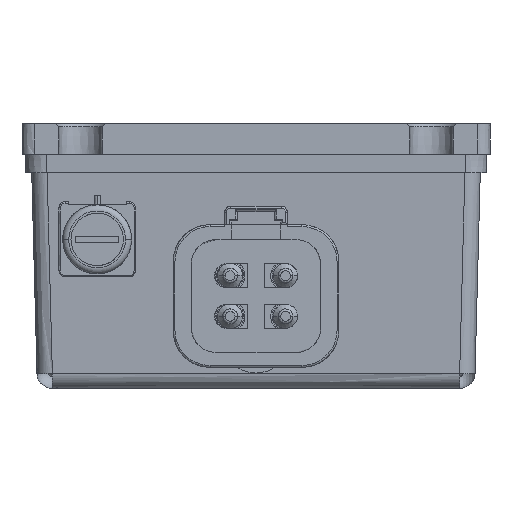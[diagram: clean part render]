
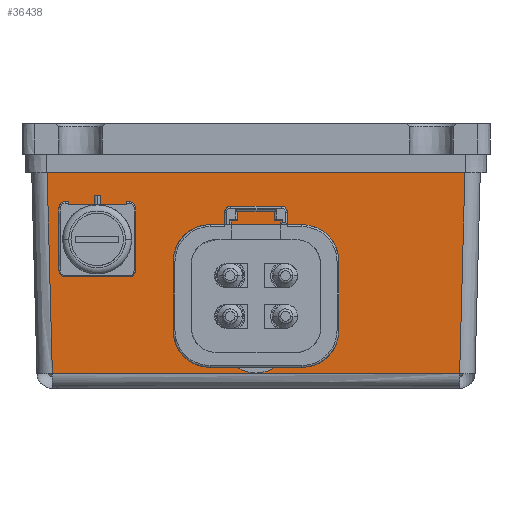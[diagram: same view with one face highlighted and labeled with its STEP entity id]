
A CAD part, front view. The second image highlights one B-rep face of the part: STEP entity #36438.
In plain terms, the highlighted free-form (B-spline) face has degree [1, 1] with [2, 2] control points.
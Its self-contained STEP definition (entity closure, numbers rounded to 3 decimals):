
#242 = VERTEX_POINT ( 'NONE', #50966 ) ;
#4646 = FACE_OUTER_BOUND ( 'NONE', #7691, .T. ) ;
#4653 = EDGE_CURVE ( 'NONE', #242, #47649, #55630, .T. ) ;
#6199 = CARTESIAN_POINT ( 'NONE',  ( -33.07, -65.069, -40.565 ) ) ;
#7691 = EDGE_LOOP ( 'NONE', ( #43278, #27999, #59149, #44594 ) ) ;
#8554 = VERTEX_POINT ( 'NONE', #34223 ) ;
#10695 = CARTESIAN_POINT ( 'NONE',  ( 33.922, -65.921, -8. ) ) ;
#11803 = EDGE_CURVE ( 'NONE', #8554, #50854, #14342, .T. ) ;
#12651 = CARTESIAN_POINT ( 'NONE',  ( -33.638, -65.637, -18.855 ) ) ;
#14342 = B_SPLINE_CURVE_WITH_KNOTS ( 'NONE', 1,
 ( #57624, #10695 ),
 .UNSPECIFIED., .F., .F.,
 ( 2, 2 ),
 ( 0., 1. ),
 .UNSPECIFIED. ) ;
#15578 = CARTESIAN_POINT ( 'NONE',  ( 33.922, -65.921, -8. ) ) ;
#15699 = EDGE_CURVE ( 'NONE', #242, #8554, #30448, .T. ) ;
#16411 = CARTESIAN_POINT ( 'NONE',  ( -33.922, -65.921, -8. ) ) ;
#18011 = EDGE_CURVE ( 'NONE', #50854, #47649, #26213, .T. ) ;
#21470 = CARTESIAN_POINT ( 'NONE',  ( 33.07, -65.069, -40.565 ) ) ;
#25825 = CARTESIAN_POINT ( 'NONE',  ( 33.07, -65.069, -40.565 ) ) ;
#26213 = B_SPLINE_CURVE_WITH_KNOTS ( 'NONE', 3,
 ( #62145, #57002, #29942, #25825 ),
 .UNSPECIFIED., .F., .F.,
 ( 4, 4 ),
 ( 0., 1. ),
 .UNSPECIFIED. ) ;
#26220 = CARTESIAN_POINT ( 'NONE',  ( 35.279, -65.052, -41.217 ) ) ;
#27999 = ORIENTED_EDGE ( 'NONE', *, *, #15699, .F. ) ;
#29942 = CARTESIAN_POINT ( 'NONE',  ( 33.354, -65.353, -29.71 ) ) ;
#30448 = B_SPLINE_CURVE_WITH_KNOTS ( 'NONE', 3,
 ( #6199, #43137, #12651, #16411 ),
 .UNSPECIFIED., .F., .F.,
 ( 4, 4 ),
 ( 0., 1. ),
 .UNSPECIFIED. ) ;
#34223 = CARTESIAN_POINT ( 'NONE',  ( -33.922, -65.921, -8. ) ) ;
#36438 = ADVANCED_FACE ( 'NONE', ( #4646 ), #52780, .F. ) ;
#37166 = CARTESIAN_POINT ( 'NONE',  ( -35.279, -65.938, -7.349 ) ) ;
#40334 = CARTESIAN_POINT ( 'NONE',  ( -33.07, -65.069, -40.565 ) ) ;
#43137 = CARTESIAN_POINT ( 'NONE',  ( -33.354, -65.353, -29.71 ) ) ;
#43278 = ORIENTED_EDGE ( 'NONE', *, *, #11803, .F. ) ;
#44594 = ORIENTED_EDGE ( 'NONE', *, *, #18011, .F. ) ;
#44790 = CARTESIAN_POINT ( 'NONE',  ( 33.07, -65.069, -40.565 ) ) ;
#46407 = CARTESIAN_POINT ( 'NONE',  ( -35.279, -65.052, -41.217 ) ) ;
#47649 = VERTEX_POINT ( 'NONE', #21470 ) ;
#50854 = VERTEX_POINT ( 'NONE', #15578 ) ;
#50966 = CARTESIAN_POINT ( 'NONE',  ( -33.07, -65.069, -40.565 ) ) ;
#52780 = B_SPLINE_SURFACE_WITH_KNOTS ( 'NONE', 1, 1, ( 
 ( #37166, #46407 ),
 ( #58078, #26220 ) ),
 .UNSPECIFIED., .F., .F., .F.,
 ( 2, 2 ),
 ( 2, 2 ),
 ( -35.279, 35.279 ),
 ( -16.94, 16.94 ),
 .UNSPECIFIED. ) ;
#55630 = B_SPLINE_CURVE_WITH_KNOTS ( 'NONE', 1,
 ( #40334, #44790 ),
 .UNSPECIFIED., .F., .F.,
 ( 2, 2 ),
 ( 0., 1. ),
 .UNSPECIFIED. ) ;
#57002 = CARTESIAN_POINT ( 'NONE',  ( 33.638, -65.637, -18.855 ) ) ;
#57624 = CARTESIAN_POINT ( 'NONE',  ( -33.922, -65.921, -8. ) ) ;
#58078 = CARTESIAN_POINT ( 'NONE',  ( 35.279, -65.938, -7.349 ) ) ;
#59149 = ORIENTED_EDGE ( 'NONE', *, *, #4653, .T. ) ;
#62145 = CARTESIAN_POINT ( 'NONE',  ( 33.922, -65.921, -8. ) ) ;
